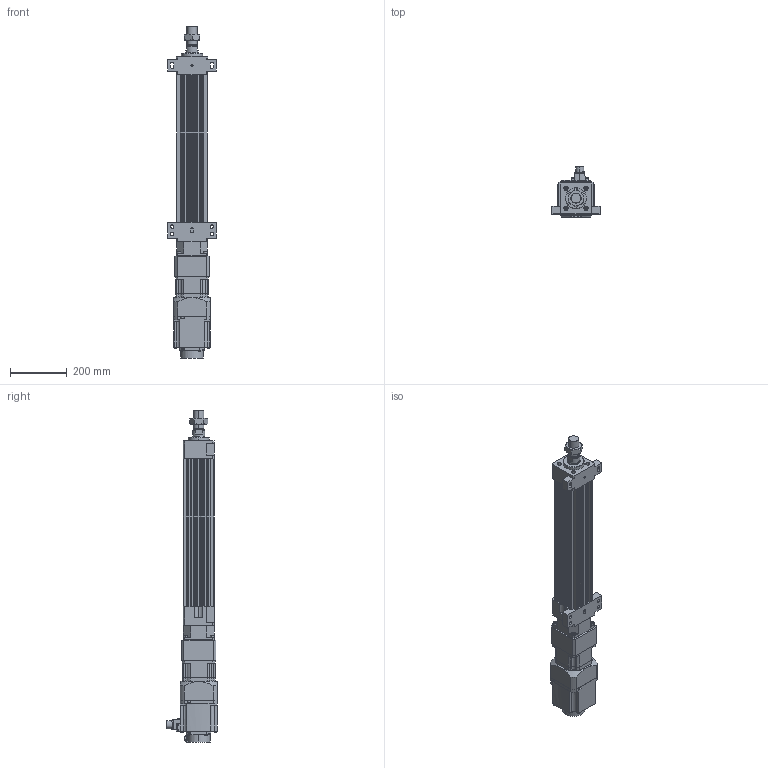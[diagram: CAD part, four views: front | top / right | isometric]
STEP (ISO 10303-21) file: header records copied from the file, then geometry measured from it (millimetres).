
FILE_DESCRIPTION (( 'STEP AP203' ), '1' );
FILE_NAME ('HES110NS(HS)-S350-W015G00-M-FFB.STEP', '2023-01-27T11:58:37', ( 'tms' ), ( '' ), 'SwSTEP 2.0', 'SolidWorks 2013', '' );
FILE_SCHEMA (( 'CONFIG_CONTROL_DESIGN' ));
Length unit declared in the file: millimetre
Products named in the file (8): AB1151; M36X1.5P; HES110 ROD M ST350; HG-SR152; AB115-003[HG-SR152]; HES110-S350-G120-FFB; P0401400706; HES110NS(HS)-S350-W015G00-M-FFB
Assembly tree (7 placements, depth 3):
  HES110NS(HS)-S350-W015G00-M-FFB
    HES110-S350-G120-FFB
    HES110 ROD M ST350
    M36X1.5P
    AB115-003[HG-SR152]
      AB1151
      P0401400706
    HG-SR152
Bounding box: 170 x 177.49 x 1171.5 mm (x, y, z)
Volume: 7606385.3 mm3; surface area: 1051331.6 mm2
Topology: 4 solids, 15 shells, 1194 faces, 3023 edges, 1968 vertices
Faces by surface type: plane 571, cylinder 531, cone 80, bspline 8, torus 4
Entity records: 37745 total; most frequent: CARTESIAN_POINT 7162, DIRECTION 6520, ORIENTED_EDGE 5998, EDGE_CURVE 3009, AXIS2_PLACEMENT_3D 2386, VERTEX_POINT 1968, LINE 1748, VECTOR 1748
